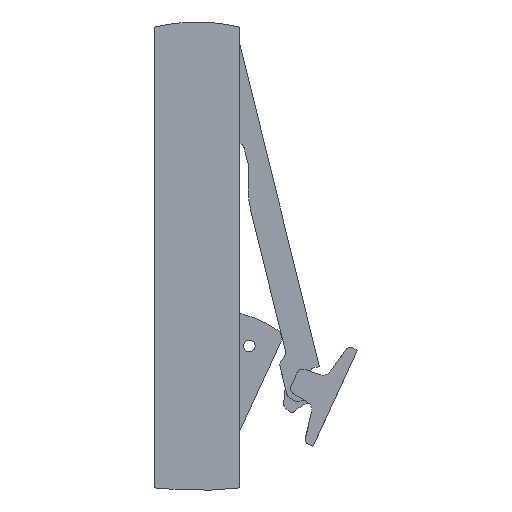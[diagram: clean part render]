
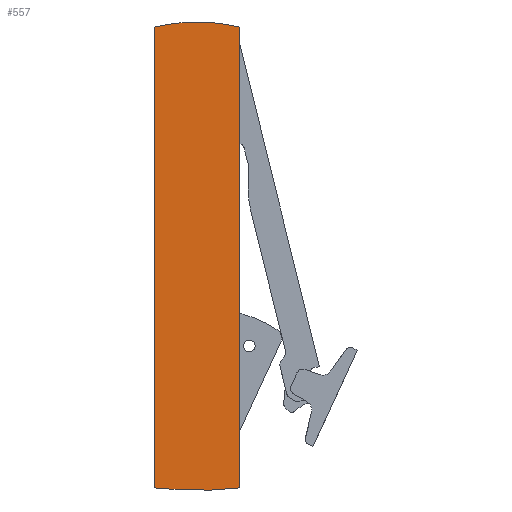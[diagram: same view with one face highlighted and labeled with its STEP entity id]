
A CAD part, left-side view. The second image highlights one B-rep face of the part: STEP entity #557.
In plain terms, the highlighted planar face has unit normal (-1, 0, 0).
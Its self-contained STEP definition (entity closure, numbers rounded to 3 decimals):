
#34 = ORIENTED_EDGE ( 'NONE', *, *, #1591, .T. ) ;
#170 = AXIS2_PLACEMENT_3D ( 'NONE', #399, #242, #280 ) ;
#242 = DIRECTION ( 'NONE',  ( -1., 0., 0. ) ) ;
#280 = DIRECTION ( 'NONE',  ( 0., 0., 1. ) ) ;
#322 = PLANE ( 'NONE',  #170 ) ;
#399 = CARTESIAN_POINT ( 'NONE',  ( -10.25, 0., 0. ) ) ;
#557 = ADVANCED_FACE ( 'NONE', ( #1140 ), #322, .T. ) ;
#612 = AXIS2_PLACEMENT_3D ( 'NONE', #2408, #2397, #2258 ) ;
#623 = AXIS2_PLACEMENT_3D ( 'NONE', #898, #900, #888 ) ;
#647 = AXIS2_PLACEMENT_3D ( 'NONE', #822, #802, #798 ) ;
#798 = DIRECTION ( 'NONE',  ( 0., 0., 1. ) ) ;
#802 = DIRECTION ( 'NONE',  ( -1., 0., 0. ) ) ;
#822 = CARTESIAN_POINT ( 'NONE',  ( -10.25, 0., 19. ) ) ;
#877 = CARTESIAN_POINT ( 'NONE',  ( -10.25, -16.5, 86.998 ) ) ;
#888 = DIRECTION ( 'NONE',  ( 0., 0., 1. ) ) ;
#898 = CARTESIAN_POINT ( 'NONE',  ( -10.25, 0., 57.7 ) ) ;
#899 = DIRECTION ( 'NONE',  ( 0., 0., -1. ) ) ;
#900 = DIRECTION ( 'NONE',  ( -1., 0., 0. ) ) ;
#947 = CARTESIAN_POINT ( 'NONE',  ( -10.25, 16.5, 86.998 ) ) ;
#958 = DIRECTION ( 'NONE',  ( 0., 0., 1. ) ) ;
#1140 = FACE_OUTER_BOUND ( 'NONE', #2708, .T. ) ;
#1263 = VERTEX_POINT ( 'NONE', #2431 ) ;
#1335 = VERTEX_POINT ( 'NONE', #2266 ) ;
#1351 = VERTEX_POINT ( 'NONE', #2300 ) ;
#1352 = VERTEX_POINT ( 'NONE', #2349 ) ;
#1356 = VERTEX_POINT ( 'NONE', #2415 ) ;
#1393 = EDGE_CURVE ( 'NONE', #1335, #1263, #1960, .T. ) ;
#1480 = ORIENTED_EDGE ( 'NONE', *, *, #1393, .T. ) ;
#1517 = ORIENTED_EDGE ( 'NONE', *, *, #1620, .T. ) ;
#1518 = ORIENTED_EDGE ( 'NONE', *, *, #1567, .T. ) ;
#1542 = ORIENTED_EDGE ( 'NONE', *, *, #1576, .T. ) ;
#1567 = EDGE_CURVE ( 'NONE', #1352, #1335, #1989, .T. ) ;
#1576 = EDGE_CURVE ( 'NONE', #1351, #1352, #2013, .T. ) ;
#1591 = EDGE_CURVE ( 'NONE', #1356, #1351, #2033, .T. ) ;
#1620 = EDGE_CURVE ( 'NONE', #1263, #1356, #2058, .T. ) ;
#1960 = CIRCLE ( 'NONE', #612, 69.971 ) ;
#1989 = LINE ( 'NONE', #877, #2000 ) ;
#2000 = VECTOR ( 'NONE', #958, 1000. ) ;
#2013 = CIRCLE ( 'NONE', #623, 150. ) ;
#2033 = LINE ( 'NONE', #947, #2035 ) ;
#2035 = VECTOR ( 'NONE', #899, 1000. ) ;
#2058 = CIRCLE ( 'NONE', #647, 69.971 ) ;
#2258 = DIRECTION ( 'NONE',  ( 0., 0., 1. ) ) ;
#2266 = CARTESIAN_POINT ( 'NONE',  ( -10.25, -16.5, 86.998 ) ) ;
#2300 = CARTESIAN_POINT ( 'NONE',  ( -10.25, 16.5, -91.39 ) ) ;
#2349 = CARTESIAN_POINT ( 'NONE',  ( -10.25, -16.5, -91.39 ) ) ;
#2397 = DIRECTION ( 'NONE',  ( -1., 0., 0. ) ) ;
#2408 = CARTESIAN_POINT ( 'NONE',  ( -10.25, 0., 19. ) ) ;
#2415 = CARTESIAN_POINT ( 'NONE',  ( -10.25, 16.5, 86.998 ) ) ;
#2431 = CARTESIAN_POINT ( 'NONE',  ( -10.25, 0., 88.971 ) ) ;
#2708 = EDGE_LOOP ( 'NONE', ( #1480, #1517, #34, #1542, #1518 ) ) ;
